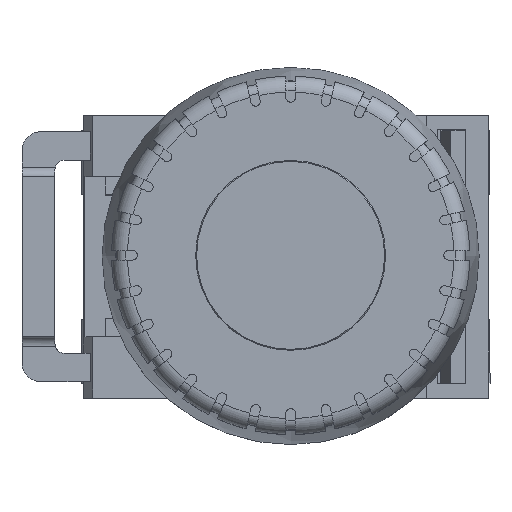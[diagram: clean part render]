
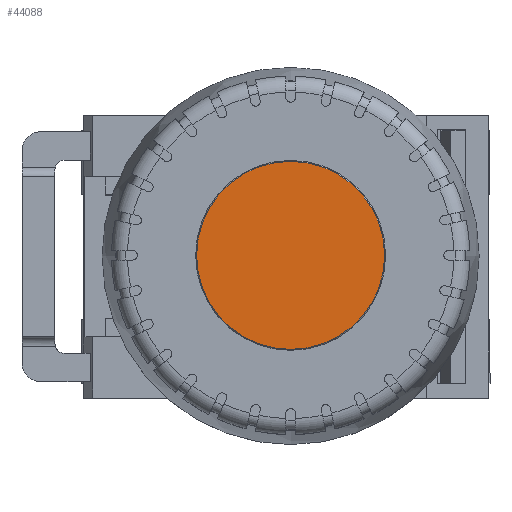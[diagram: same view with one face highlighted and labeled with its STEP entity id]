
A CAD part, top view. The second image highlights one B-rep face of the part: STEP entity #44088.
In plain terms, the highlighted planar face has unit normal (0, 0, 1).
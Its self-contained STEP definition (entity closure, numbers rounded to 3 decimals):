
#44037=CARTESIAN_POINT('',(9.975,0.,81.7));
#44038=VERTEX_POINT('',#44037);
#44039=CARTESIAN_POINT('',(0.,0.,81.7));
#44040=DIRECTION('',(0.0,0.0,-1.0));
#44041=DIRECTION('',(-1.0,0.0,0.0));
#44042=AXIS2_PLACEMENT_3D('',#44039,#44040,#44041);
#44043=CIRCLE('',#44042,9.975);
#44044=EDGE_CURVE('',#44038,#44038,#44043,.T.);
#44080=CARTESIAN_POINT('',(0.,0.,81.7));
#44081=DIRECTION('',(0.0,0.0,-1.0));
#44082=DIRECTION('',(-1.0,0.0,0.0));
#44083=AXIS2_PLACEMENT_3D('',#44080,#44081,#44082);
#44084=PLANE('',#44083);
#44085=ORIENTED_EDGE('',*,*,#44044,.F.);
#44086=EDGE_LOOP('',(#44085));
#44087=FACE_OUTER_BOUND('',#44086,.T.);
#44088=ADVANCED_FACE('',(#44087),#44084,.F.);
